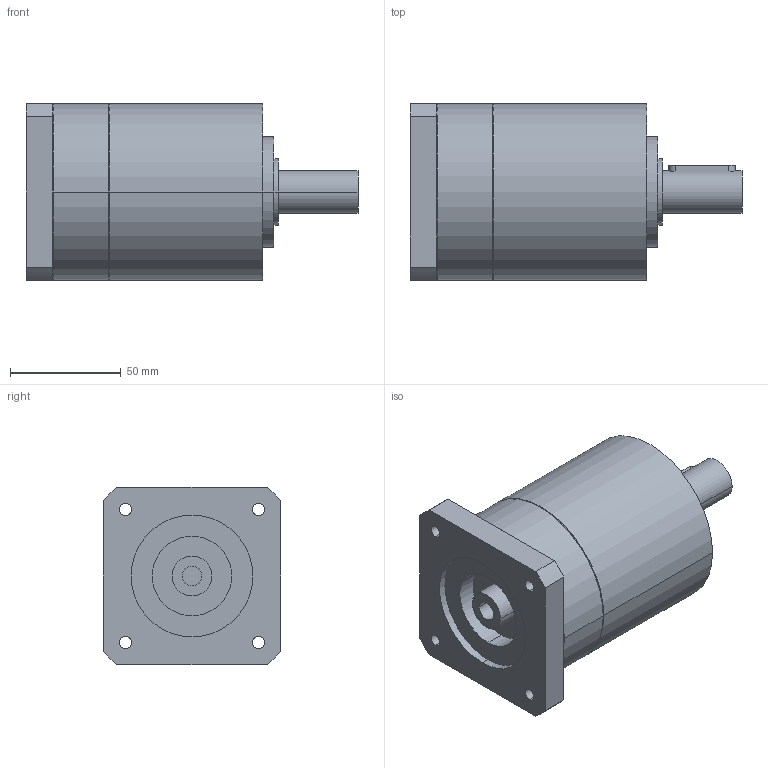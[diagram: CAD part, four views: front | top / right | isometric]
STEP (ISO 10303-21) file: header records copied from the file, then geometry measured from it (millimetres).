
FILE_DESCRIPTION(('CoCreate Modeling STEP Export'),'2;1');
FILE_NAME('GPR100_ig-3-4-5-6_19_B14_9_P20.stp','2014-08-26T10:53:13',(''),(''),'CoCreate Modeling STEP processor for AP214 (Solid Model)','CoCreate Modeling 16.00C 25-Feb-2009 (C) Parametric Technology GmbH','');
FILE_SCHEMA(('AUTOMOTIVE_DESIGN { 1 0 10303 214 1 1 1 1 }'));
Length unit declared in the file: millimetre
Products named in the file (2): GPR100_ig-3-4-5-6_19_B14_9_P20
Assembly tree (1 placements, depth 2):
  GPR100_ig-3-4-5-6_19_B14_9_P20
    GPR100_ig-3-4-5-6_19_B14_9_P20
Bounding box: 150 x 80 x 80 mm (x, y, z)
Volume: 554733.9 mm3; surface area: 49162.3 mm2
Topology: 1 solids, 1 shells, 86 faces, 222 edges, 150 vertices
Faces by surface type: cylinder 50, plane 30, cone 6
Entity records: 2267 total; most frequent: ORIENTED_EDGE 440, CARTESIAN_POINT 408, DIRECTION 314, EDGE_CURVE 220, VERTEX_POINT 150, AXIS2_PLACEMENT_3D 120, EDGE_LOOP 108, FACE_OUTER_BOUND 86
